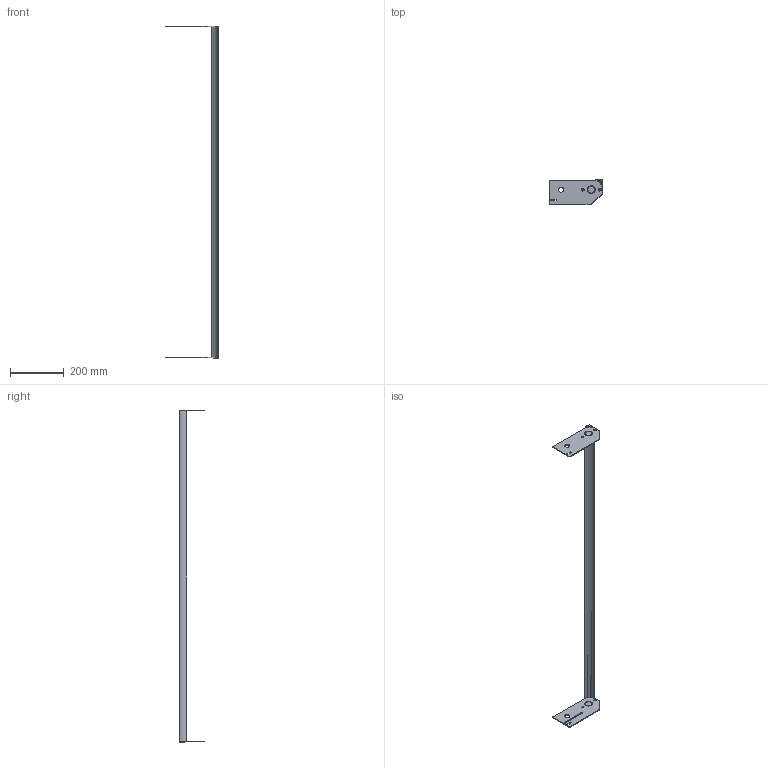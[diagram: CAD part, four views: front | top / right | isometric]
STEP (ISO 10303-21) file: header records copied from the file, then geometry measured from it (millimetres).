
FILE_DESCRIPTION((''),'2;1');
FILE_NAME('27M3301-20_ASM','2022-06-23T',('james.horst'),(''),'PRO/ENGINEER BY PARAMETRIC TECHNOLOGY CORPORATION, 2012420','PRO/ENGINEER BY PARAMETRIC TECHNOLOGY CORPORATION, 2012420','');
FILE_SCHEMA(('CONFIG_CONTROL_DESIGN'));
Length unit declared in the file: inch
Products named in the file (6): 350539-24; 350537_1_1_1; 930410M_1_1; 350538_1_1_1; 27M3300-20_ASM_1_ASM; 27M3301-20_ASM
Assembly tree (8 placements, depth 3):
  27M3301-20_ASM
    27M3300-20_ASM_1_ASM
      350539-24
      350537_1_1_1
      930410M_1_1  x4
      350538_1_1_1
Bounding box: 196.06 x 92.74 x 1231.54 mm (x, y, z)
Volume: 444955.3 mm3; surface area: 205363.8 mm2
Topology: 7 solids, 11 shells, 199 faces, 529 edges, 348 vertices
Faces by surface type: cylinder 87, plane 80, cone 32
Entity records: 5165 total; most frequent: DIRECTION 941, CARTESIAN_POINT 894, ORIENTED_EDGE 814, EDGE_CURVE 415, AXIS2_PLACEMENT_3D 361, VERTEX_POINT 276, VECTOR 219, LINE 219
